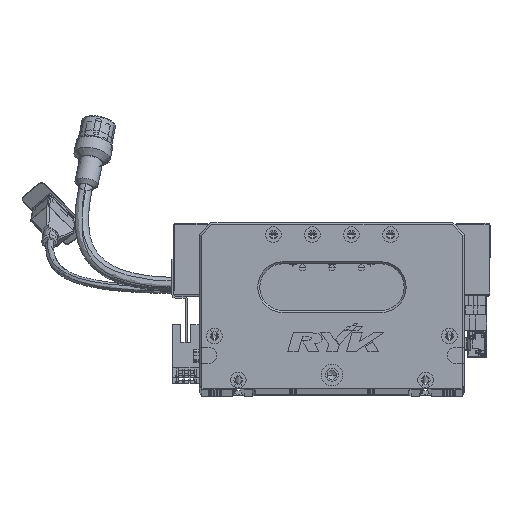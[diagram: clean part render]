
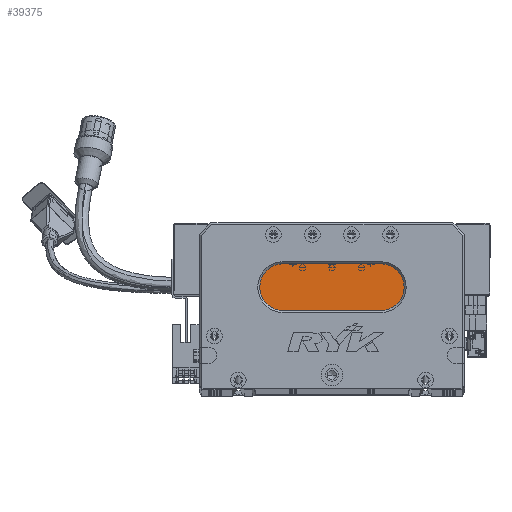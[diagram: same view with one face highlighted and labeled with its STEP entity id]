
A CAD part, top view. The second image highlights one B-rep face of the part: STEP entity #39375.
In plain terms, the highlighted planar face has unit normal (0, 0, 1) as drawn and (0, 0, -1) by its records, which use the part's own axes.
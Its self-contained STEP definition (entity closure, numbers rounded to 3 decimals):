
#1378 = DIRECTION ( 'NONE',  ( -1., 0., 0. ) ) ;
#4866 = CARTESIAN_POINT ( 'NONE',  ( 93., 40., 13. ) ) ;
#5856 = ORIENTED_EDGE ( 'NONE', *, *, #11325, .T. ) ;
#6058 = VECTOR ( 'NONE', #90249, 1000. ) ;
#8178 = CARTESIAN_POINT ( 'NONE',  ( 43., 52., 13. ) ) ;
#11313 = CARTESIAN_POINT ( 'NONE',  ( 93., 64., 13. ) ) ;
#11325 = EDGE_CURVE ( 'NONE', #25493, #37444, #81455, .T. ) ;
#11903 = DIRECTION ( 'NONE',  ( -1., 0., 0. ) ) ;
#24218 = AXIS2_PLACEMENT_3D ( 'NONE', #62634, #27512, #1378 ) ;
#25493 = VERTEX_POINT ( 'NONE', #87585 ) ;
#25874 = CARTESIAN_POINT ( 'NONE',  ( 93., 40., 13. ) ) ;
#26272 = DIRECTION ( 'NONE',  ( 0., 0., -1. ) ) ;
#26940 = AXIS2_PLACEMENT_3D ( 'NONE', #111506, #66826, #58741 ) ;
#27237 = FACE_OUTER_BOUND ( 'NONE', #103559, .T. ) ;
#27512 = DIRECTION ( 'NONE',  ( 0., 0., -1. ) ) ;
#28824 = CARTESIAN_POINT ( 'NONE',  ( 93., 52., 13. ) ) ;
#30203 = ORIENTED_EDGE ( 'NONE', *, *, #89511, .T. ) ;
#33182 = VERTEX_POINT ( 'NONE', #4866 ) ;
#35066 = EDGE_CURVE ( 'NONE', #33182, #98817, #112067, .T. ) ;
#36343 = PLANE ( 'NONE',  #24218 ) ;
#37444 = VERTEX_POINT ( 'NONE', #96319 ) ;
#39085 = ORIENTED_EDGE ( 'NONE', *, *, #35066, .T. ) ;
#39375 = ADVANCED_FACE ( 'NONE', ( #27237 ), #36343, .T. ) ;
#41483 = CIRCLE ( 'NONE', #50341, 12. ) ;
#47399 = DIRECTION ( 'NONE',  ( 0., 0., -1. ) ) ;
#49871 = ORIENTED_EDGE ( 'NONE', *, *, #74084, .T. ) ;
#50341 = AXIS2_PLACEMENT_3D ( 'NONE', #28824, #47399, #11903 ) ;
#58741 = DIRECTION ( 'NONE',  ( -1., 0., 0. ) ) ;
#61038 = ORIENTED_EDGE ( 'NONE', *, *, #77974, .T. ) ;
#61779 = DIRECTION ( 'NONE',  ( -1., 0., 0. ) ) ;
#62634 = CARTESIAN_POINT ( 'NONE',  ( 93., 52., 13. ) ) ;
#66826 = DIRECTION ( 'NONE',  ( 0., 0., -1. ) ) ;
#67942 = VECTOR ( 'NONE', #103764, 1000. ) ;
#74084 = EDGE_CURVE ( 'NONE', #37444, #103927, #77668, .T. ) ;
#77668 = LINE ( 'NONE', #11313, #6058 ) ;
#77974 = EDGE_CURVE ( 'NONE', #98817, #25493, #81236, .T. ) ;
#81236 = CIRCLE ( 'NONE', #92915, 12. ) ;
#81455 = CIRCLE ( 'NONE', #26940, 12. ) ;
#87585 = CARTESIAN_POINT ( 'NONE',  ( 31., 52., 13. ) ) ;
#89511 = EDGE_CURVE ( 'NONE', #103927, #33182, #41483, .T. ) ;
#90249 = DIRECTION ( 'NONE',  ( 1., 0., 0. ) ) ;
#92915 = AXIS2_PLACEMENT_3D ( 'NONE', #8178, #26272, #61779 ) ;
#96319 = CARTESIAN_POINT ( 'NONE',  ( 43., 64., 13. ) ) ;
#98817 = VERTEX_POINT ( 'NONE', #111720 ) ;
#103559 = EDGE_LOOP ( 'NONE', ( #30203, #39085, #61038, #5856, #49871 ) ) ;
#103764 = DIRECTION ( 'NONE',  ( -1., 0., 0. ) ) ;
#103927 = VERTEX_POINT ( 'NONE', #104938 ) ;
#104938 = CARTESIAN_POINT ( 'NONE',  ( 93., 64., 13. ) ) ;
#111506 = CARTESIAN_POINT ( 'NONE',  ( 43., 52., 13. ) ) ;
#111720 = CARTESIAN_POINT ( 'NONE',  ( 43., 40., 13. ) ) ;
#112067 = LINE ( 'NONE', #25874, #67942 ) ;
